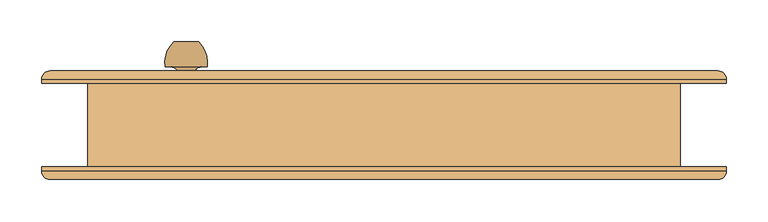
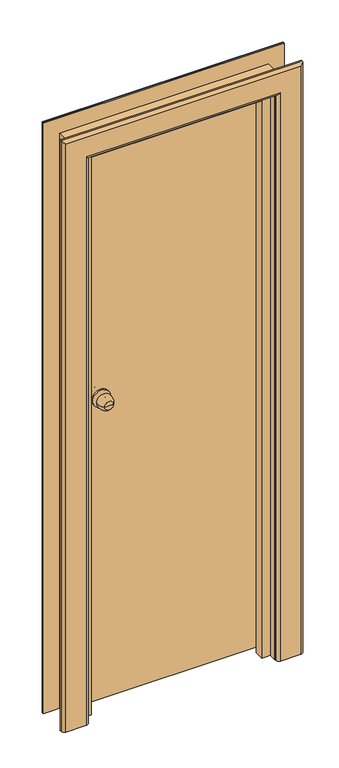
"""IFC4 building model written with IfcOpenShell, lengths in millimetres: door geometry, Внутренняя дверь 1-Навесная - 6629-88 : ДГ 21-7  ГОСТ 6629-88."""

from ifc_helpers import new_model, si_unit, point, frame, origin, place, context, project, spatial, polyline, circle_curve, ellipse_curve, trimmed, outline, extrude, faceted_brep, source, transform, mapped, element, save
from ifc_brep_helpers import plane_surface, cylinder_surface, revolved_surface, advanced_brep


def door_4404b6de(model_context):
    return source(origin(), model_context, "Body", "SolidModel", [
        advanced_brep(
        [(-222.0, 100.0, 1100.0), (-237.0, 100.0, 1100.0), (-252.0, 100.0, 1100.0), (-262.0, 70.0, 1100.0), (-212.0, 70.0, 1100.0), (-255.0, 70.0, 1100.0), (-219.0, 70.0, 1100.0), (-247.0, 62.0, 1100.0), (-227.0, 62.0, 1100.0), (-247.0, 56.0, 1100.0), (-227.0, 56.0, 1100.0), (-267.0, 56.0, 1100.0), (-207.0, 56.0, 1100.0), (-267.0, 50.0, 1100.0), (-207.0, 50.0, 1100.0)],
        [
            (0, 1),
            (1, 2),
            (2, 0, circle_curve(frame((-237.0, 100.0, 1100.0), z_axis=(0.0, 1.0, 0.0), x_axis=(-1.0, 0.0, 0.0)), 15.0)),
            (0, 2, circle_curve(frame((-237.0, 100.0, 1100.0), z_axis=(0.0, 1.0, 0.0), x_axis=(-1.0, 0.0, 0.0)), 15.0)),
            (2, 3, circle_curve(frame((-227.3773735, 75.1257912, 1100.0), z_axis=(0.0, 0.0, 1.0), x_axis=(1.0, 0.0, 0.0)), 35.0)),
            (3, 4, circle_curve(frame((-237.0, 70.0, 1100.0), z_axis=(0.0, 1.0, 0.0), x_axis=(-1.0, 0.0, 0.0)), 25.0)),
            (4, 0, circle_curve(frame((-246.6226265, 75.1257912, 1100.0), z_axis=(0.0, 0.0, 1.0), x_axis=(-1.0, 0.0, 0.0)), 35.0)),
            (4, 3, circle_curve(frame((-237.0, 70.0, 1100.0), z_axis=(0.0, 1.0, 0.0), x_axis=(-1.0, 0.0, 0.0)), 25.0)),
            (3, 5),
            (5, 6, circle_curve(frame((-237.0, 70.0, 1100.0), z_axis=(0.0, 1.0, 0.0), x_axis=(-1.0, 0.0, 0.0)), 18.0)),
            (6, 4),
            (6, 5, circle_curve(frame((-237.0, 70.0, 1100.0), z_axis=(0.0, 1.0, 0.0), x_axis=(-1.0, 0.0, 0.0)), 18.0)),
            (5, 7, circle_curve(frame((-255.0, 62.0, 1100.0), z_axis=(0.0, 0.0, -1.0), x_axis=(1.0, 0.0, 0.0)), 8.0)),
            (7, 8, circle_curve(frame((-237.0, 62.0, 1100.0), z_axis=(0.0, 1.0, 0.0), x_axis=(-1.0, 0.0, 0.0)), 10.0)),
            (8, 6, circle_curve(frame((-219.0, 62.0, 1100.0), z_axis=(0.0, 0.0, -1.0), x_axis=(-1.0, 0.0, 0.0)), 8.0)),
            (8, 7, circle_curve(frame((-237.0, 62.0, 1100.0), z_axis=(0.0, 1.0, 0.0), x_axis=(-1.0, 0.0, 0.0)), 10.0)),
            (7, 9),
            (9, 10, circle_curve(frame((-237.0, 56.0, 1100.0), z_axis=(0.0, 1.0, 0.0), x_axis=(-1.0, 0.0, 0.0)), 10.0)),
            (10, 8),
            (10, 9, circle_curve(frame((-237.0, 56.0, 1100.0), z_axis=(0.0, 1.0, 0.0), x_axis=(-1.0, 0.0, 0.0)), 10.0)),
            (11, 12, circle_curve(frame((-237.0, 56.0, 1100.0), z_axis=(0.0, 1.0, 0.0), x_axis=(1.0, 0.0, 0.0)), 30.0)),
            (12, 11, circle_curve(frame((-237.0, 56.0, 1100.0), z_axis=(0.0, 1.0, 0.0), x_axis=(1.0, 0.0, 0.0)), 30.0)),
            (13, 14, circle_curve(frame((-237.0, 50.0, 1100.0), z_axis=(0.0, -1.0, 0.0), x_axis=(1.0, 0.0, 0.0)), 30.0)),
            (14, 13, circle_curve(frame((-237.0, 50.0, 1100.0), z_axis=(0.0, -1.0, 0.0), x_axis=(1.0, 0.0, 0.0)), 30.0)),
            (12, 14),
            (13, 11),
        ],
        [
            plane_surface(frame((-237.0, 100.0, 1100.0), z_axis=(0.0, 1.0, 0.0), x_axis=(-1.0, 0.0, 0.0))),
            revolved_surface(trimmed(ellipse_curve(frame((-227.3773735, 75.1257912, 1100.0), z_axis=(0.0, 0.0, 1.0), x_axis=(1.0, 0.0, 0.0)), 35.0, 35.0), [point((-252.0, 100.0, 1100.0))], [point((-262.0, 70.0, 1100.0))], True, "CARTESIAN"), (-237.0, 130.0, 1100.0), (0.0, -1.0, 0.0)),
            plane_surface(frame((-237.0, 70.0, 1100.0), z_axis=(0.0, -1.0, 0.0), x_axis=(-1.0, 0.0, 0.0))),
            revolved_surface(trimmed(ellipse_curve(frame((-255.0, 62.0, 1100.0), z_axis=(0.0, 0.0, -1.0), x_axis=(1.0, 0.0, 0.0)), 8.0, 8.0), [point((-255.0, 70.0, 1100.0))], [point((-247.0, 62.0, 1100.0))], True, "CARTESIAN"), (-237.0, 130.0, 1100.0), (0.0, -1.0, 0.0)),
            cylinder_surface(frame((-237.0, 130.0, 1100.0), z_axis=(0.0, -1.0, 0.0), x_axis=(-1.0, 0.0, 0.0)), 10.0),
            plane_surface(frame((-207.0, 56.0, 1100.0), z_axis=(0.0, 1.0, 0.0), x_axis=(0.0, 0.0, 1.0))),
            plane_surface(frame((-207.0, 50.0, 1100.0), z_axis=(0.0, -1.0, 0.0), x_axis=(0.0, 0.0, -1.0))),
            cylinder_surface(frame((-237.0, 50.0, 1100.0), z_axis=(0.0, 1.0, 0.0), x_axis=(1.0, 0.0, 0.0)), 30.0),
        ],
        [
            (0, [[1, 2, 3]]),
            (0, [[-1, 4, -2]]),
            (1, [[5, 6, 7, -3]]),
            (1, [[-7, 8, -5, -4]]),
            (2, [[9, 10, 11, -6]]),
            (2, [[-11, 12, -9, -8]]),
            (3, [[13, 14, 15, -10]]),
            (3, [[-15, 16, -13, -12]]),
            (4, [[17, 18, 19, -14]]),
            (4, [[-19, 20, -17, -16]]),
            (5, [[21, 22], [-20, -18]]),
            (6, [[23, 24]]),
            (7, [[25, -23, 26, -22]]),
            (7, [[-26, -24, -25, -21]]),
        ],
    ),
        advanced_brep(
        [(-252.0, -37.0, 1100.0), (-237.0, -37.0, 1100.0), (-222.0, -37.0, 1100.0), (-212.0, -7.0, 1100.0), (-262.0, -7.0, 1100.0), (-219.0, -7.0, 1100.0), (-255.0, -7.0, 1100.0), (-227.0, 1.0, 1100.0), (-247.0, 1.0, 1100.0), (-227.0, 7.0, 1100.0), (-247.0, 7.0, 1100.0), (-207.0, 7.0, 1100.0), (-267.0, 7.0, 1100.0), (-207.0, 13.0, 1100.0), (-267.0, 13.0, 1100.0)],
        [
            (0, 1),
            (1, 2),
            (2, 0, circle_curve(frame((-237.0, -37.0, 1100.0), z_axis=(0.0, -1.0, 0.0), x_axis=(1.0, 0.0, 0.0)), 15.0)),
            (0, 2, circle_curve(frame((-237.0, -37.0, 1100.0), z_axis=(0.0, -1.0, 0.0), x_axis=(1.0, 0.0, 0.0)), 15.0)),
            (2, 3, circle_curve(frame((-246.6226265, -12.1257912, 1100.0), z_axis=(0.0, 0.0, 1.0), x_axis=(-1.0, 0.0, 0.0)), 35.0)),
            (3, 4, circle_curve(frame((-237.0, -7.0, 1100.0), z_axis=(0.0, -1.0, 0.0), x_axis=(1.0, 0.0, 0.0)), 25.0)),
            (4, 0, circle_curve(frame((-227.3773735, -12.1257912, 1100.0), z_axis=(0.0, 0.0, 1.0), x_axis=(1.0, 0.0, 0.0)), 35.0)),
            (4, 3, circle_curve(frame((-237.0, -7.0, 1100.0), z_axis=(0.0, -1.0, 0.0), x_axis=(1.0, 0.0, 0.0)), 25.0)),
            (3, 5),
            (5, 6, circle_curve(frame((-237.0, -7.0, 1100.0), z_axis=(0.0, -1.0, 0.0), x_axis=(1.0, 0.0, 0.0)), 18.0)),
            (6, 4),
            (6, 5, circle_curve(frame((-237.0, -7.0, 1100.0), z_axis=(0.0, -1.0, 0.0), x_axis=(1.0, 0.0, 0.0)), 18.0)),
            (5, 7, circle_curve(frame((-219.0, 1.0, 1100.0), z_axis=(0.0, 0.0, -1.0), x_axis=(-1.0, 0.0, 0.0)), 8.0)),
            (7, 8, circle_curve(frame((-237.0, 1.0, 1100.0), z_axis=(0.0, -1.0, 0.0), x_axis=(1.0, 0.0, 0.0)), 10.0)),
            (8, 6, circle_curve(frame((-255.0, 1.0, 1100.0), z_axis=(0.0, 0.0, -1.0), x_axis=(1.0, 0.0, 0.0)), 8.0)),
            (8, 7, circle_curve(frame((-237.0, 1.0, 1100.0), z_axis=(0.0, -1.0, 0.0), x_axis=(1.0, 0.0, 0.0)), 10.0)),
            (7, 9),
            (9, 10, circle_curve(frame((-237.0, 7.0, 1100.0), z_axis=(0.0, -1.0, 0.0), x_axis=(1.0, 0.0, 0.0)), 10.0)),
            (10, 8),
            (10, 9, circle_curve(frame((-237.0, 7.0, 1100.0), z_axis=(0.0, -1.0, 0.0), x_axis=(1.0, 0.0, 0.0)), 10.0)),
            (11, 12, circle_curve(frame((-237.0, 7.0, 1100.0), z_axis=(0.0, -1.0, 0.0), x_axis=(-1.0, 0.0, 0.0)), 30.0)),
            (12, 11, circle_curve(frame((-237.0, 7.0, 1100.0), z_axis=(0.0, -1.0, 0.0), x_axis=(-1.0, 0.0, 0.0)), 30.0)),
            (13, 14, circle_curve(frame((-237.0, 13.0, 1100.0), z_axis=(0.0, 1.0, 0.0), x_axis=(-1.0, 0.0, 0.0)), 30.0)),
            (14, 13, circle_curve(frame((-237.0, 13.0, 1100.0), z_axis=(0.0, 1.0, 0.0), x_axis=(-1.0, 0.0, 0.0)), 30.0)),
            (12, 14),
            (13, 11),
        ],
        [
            plane_surface(frame((-237.0, -37.0, 1100.0), z_axis=(0.0, -1.0, 0.0), x_axis=(1.0, 0.0, 0.0))),
            revolved_surface(trimmed(ellipse_curve(frame((-246.6226265, -12.1257912, 1100.0), z_axis=(0.0, 0.0, 1.0), x_axis=(-1.0, 0.0, 0.0)), 35.0, 35.0), [point((-222.0, -37.0, 1100.0))], [point((-212.0, -7.0, 1100.0))], True, "CARTESIAN"), (-237.0, -67.0, 1100.0), (0.0, 1.0, 0.0)),
            plane_surface(frame((-237.0, -7.0, 1100.0), z_axis=(0.0, 1.0, 0.0), x_axis=(1.0, 0.0, 0.0))),
            revolved_surface(trimmed(ellipse_curve(frame((-219.0, 1.0, 1100.0), z_axis=(0.0, 0.0, -1.0), x_axis=(-1.0, 0.0, 0.0)), 8.0, 8.0), [point((-219.0, -7.0, 1100.0))], [point((-227.0, 1.0, 1100.0))], True, "CARTESIAN"), (-237.0, -67.0, 1100.0), (0.0, 1.0, 0.0)),
            cylinder_surface(frame((-237.0, -67.0, 1100.0), z_axis=(0.0, 1.0, 0.0), x_axis=(1.0, 0.0, 0.0)), 10.0),
            plane_surface(frame((-267.0, 7.0, 1100.0), z_axis=(0.0, -1.0, 0.0), x_axis=(0.0, 0.0, 1.0))),
            plane_surface(frame((-267.0, 13.0, 1100.0), z_axis=(0.0, 1.0, 0.0), x_axis=(0.0, 0.0, -1.0))),
            cylinder_surface(frame((-237.0, 13.0, 1100.0), z_axis=(0.0, -1.0, 0.0), x_axis=(-1.0, 0.0, 0.0)), 30.0),
        ],
        [
            (0, [[1, 2, 3]]),
            (0, [[-1, 4, -2]]),
            (1, [[5, 6, 7, -3]]),
            (1, [[-7, 8, -5, -4]]),
            (2, [[9, 10, 11, -6]]),
            (2, [[-11, 12, -9, -8]]),
            (3, [[13, 14, 15, -10]]),
            (3, [[-15, 16, -13, -12]]),
            (4, [[17, 18, 19, -14]]),
            (4, [[-19, 20, -17, -16]]),
            (5, [[21, 22], [-20, -18]]),
            (6, [[23, 24]]),
            (7, [[25, -23, 26, -22]]),
            (7, [[-26, -24, -25, -21]]),
        ],
    ),
        extrude(outline(polyline([(0.0, 335.0), (2050.0, 335.0), (2050.0, -335.0), (0.0, -335.0), (0.0, -320.0), (2035.0, -320.0), (2035.0, 320.0), (0.0, 320.0), (0.0, 335.0)])), frame((0.0, -50.0, 0.0), z_axis=(0.0, 1.0, 0.0), x_axis=(0.0, 0.0, 1.0)), (0.0, 0.0, 1.0), 26.0),
        advanced_brep(
        [(-410.0, 50.0, 0.0), (-410.0, 55.0, 0.0), (-400.0, 65.0, 0.0), (-330.0, 65.0, 0.0), (-320.0, 55.0, 0.0), (-320.0, 50.0, 0.0), (-320.0, 50.0, 2035.0), (320.0, 50.0, 2035.0), (320.0, 50.0, 0.0), (410.0, 50.0, 0.0), (410.0, 50.0, 2125.0), (-410.0, 50.0, 2125.0), (-320.0, 55.0, 2035.0), (-330.0, 65.0, 2045.0), (-400.0, 65.0, 2115.0), (400.0, 65.0, 2115.0), (400.0, 65.0, 0.0), (330.0, 65.0, 0.0), (330.0, 65.0, 2045.0), (-410.0, 55.0, 2125.0), (410.0, 55.0, 0.0), (410.0, 55.0, 2125.0), (320.0, 55.0, 0.0), (320.0, 55.0, 2035.0)],
        [
            (0, 1),
            (1, 2, circle_curve(frame((-400.0, 55.0, 0.0), z_axis=(0.0, 0.0, -1.0), x_axis=(-1.0, 0.0, 0.0)), 10.0)),
            (2, 3),
            (3, 4, circle_curve(frame((-330.0, 55.0, 0.0), z_axis=(0.0, 0.0, -1.0), x_axis=(-1.0, 0.0, 0.0)), 10.0)),
            (4, 5),
            (5, 0),
            (5, 6),
            (6, 7),
            (7, 8),
            (8, 9),
            (9, 10),
            (10, 11),
            (11, 0),
            (4, 12),
            (12, 6),
            (3, 13),
            (13, 12, ellipse_curve(frame((-330.0, 55.0, 2045.0), z_axis=(-0.7071067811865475, 0.0, -0.7071067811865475), x_axis=(0.7071067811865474, 0.0, -0.7071067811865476)), 14.1421356, 10.0)),
            (2, 14),
            (14, 15),
            (15, 16),
            (16, 17),
            (17, 18),
            (18, 13),
            (1, 19),
            (19, 14, ellipse_curve(frame((-400.0, 55.0, 2115.0), z_axis=(-0.7071067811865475, 0.0, -0.7071067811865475), x_axis=(0.7071067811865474, 0.0, -0.7071067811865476)), 14.1421356, 10.0)),
            (11, 19),
            (9, 20),
            (20, 21),
            (21, 10),
            (8, 22),
            (22, 17, circle_curve(frame((330.0, 55.0, 0.0), z_axis=(0.0, 0.0, -1.0), x_axis=(1.0, 0.0, 0.0)), 10.0)),
            (16, 20, circle_curve(frame((400.0, 55.0, 0.0), z_axis=(0.0, 0.0, -1.0), x_axis=(1.0, 0.0, 0.0)), 10.0)),
            (23, 22),
            (7, 23),
            (23, 18, ellipse_curve(frame((330.0, 55.0, 2045.0), z_axis=(0.7071067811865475, 0.0, -0.7071067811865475), x_axis=(0.7071067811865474, 0.0, 0.7071067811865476)), 14.1421356, 10.0)),
            (15, 21, ellipse_curve(frame((400.0, 55.0, 2115.0), z_axis=(0.7071067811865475, 0.0, -0.7071067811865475), x_axis=(0.7071067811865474, 0.0, 0.7071067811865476)), 14.1421356, 10.0)),
            (12, 23),
            (19, 21),
        ],
        [
            plane_surface(frame((-355.0, 50.0, 0.0), z_axis=(0.0, 0.0, -1.0), x_axis=(0.0, -1.0, 0.0))),
            plane_surface(frame((-410.0, 50.0, 0.0), z_axis=(0.0, -1.0, 0.0), x_axis=(0.0, 0.0, 1.0))),
            plane_surface(frame((-320.0, 50.0, 0.0), z_axis=(1.0, 0.0, 0.0), x_axis=(0.0, 0.0, 1.0))),
            cylinder_surface(frame((-330.0, 55.0, 0.0), z_axis=(0.0, 0.0, -1.0), x_axis=(-1.0, 0.0, 0.0)), 10.0),
            plane_surface(frame((-330.0, 65.0, 0.0), z_axis=(0.0, 1.0, 0.0), x_axis=(0.0, 0.0, 1.0))),
            cylinder_surface(frame((-400.0, 55.0, 0.0), z_axis=(0.0, 0.0, -1.0), x_axis=(-1.0, 0.0, 0.0)), 10.0),
            plane_surface(frame((-410.0, 55.0, 0.0), z_axis=(-1.0, 0.0, 0.0), x_axis=(0.0, 0.0, 1.0))),
            plane_surface(frame((410.0, 55.0, 2125.0), z_axis=(1.0, 0.0, 0.0), x_axis=(0.0, 0.0, -1.0))),
            plane_surface(frame((355.0, 50.0, 0.0), z_axis=(0.0, 0.0, -1.0), x_axis=(0.0, -1.0, 0.0))),
            plane_surface(frame((320.0, 50.0, 2035.0), z_axis=(-1.0, 0.0, 0.0), x_axis=(0.0, 0.0, -1.0))),
            cylinder_surface(frame((330.0, 55.0, 2070.0), z_axis=(0.0, 0.0, 1.0), x_axis=(1.0, 0.0, 0.0)), 10.0),
            cylinder_surface(frame((400.0, 55.0, 2070.0), z_axis=(0.0, 0.0, 1.0), x_axis=(1.0, 0.0, 0.0)), 10.0),
            plane_surface(frame((-320.0, 50.0, 2035.0), z_axis=(0.0, 0.0, -1.0), x_axis=(1.0, 0.0, 0.0))),
            cylinder_surface(frame((-355.0, 55.0, 2045.0), z_axis=(-1.0, 0.0, 0.0), x_axis=(0.0, 0.0, 1.0)), 10.0),
            cylinder_surface(frame((-355.0, 55.0, 2115.0), z_axis=(-1.0, 0.0, 0.0), x_axis=(0.0, 0.0, 1.0)), 10.0),
            plane_surface(frame((-410.0, 55.0, 2125.0), z_axis=(0.0, 0.0, 1.0), x_axis=(1.0, 0.0, 0.0))),
        ],
        [
            (0, [[1, 2, 3, 4, 5, 6]]),
            (1, [[7, 8, 9, 10, 11, 12, 13, -6]]),
            (2, [[14, 15, -7, -5]]),
            (3, [[16, 17, -14, -4]]),
            (4, [[18, 19, 20, 21, 22, 23, -16, -3]]),
            (5, [[24, 25, -18, -2]]),
            (6, [[-13, 26, -24, -1]]),
            (7, [[-11, 27, 28, 29]]),
            (8, [[-10, 30, 31, -21, 32, -27]]),
            (9, [[33, -30, -9, 34]]),
            (10, [[-22, -31, -33, 35]]),
            (11, [[-28, -32, -20, 36]]),
            (12, [[37, -34, -8, -15]]),
            (13, [[-23, -35, -37, -17]]),
            (14, [[38, -36, -19, -25]]),
            (15, [[-12, -29, -38, -26]]),
        ],
    ),
        advanced_brep(
        [(410.0, -50.0, 0.0), (410.0, -55.0, 0.0), (400.0, -65.0, 0.0), (330.0, -65.0, 0.0), (320.0, -55.0, 0.0), (320.0, -50.0, 0.0), (320.0, -50.0, 2035.0), (-320.0, -50.0, 2035.0), (-320.0, -50.0, 0.0), (-410.0, -50.0, 0.0), (-410.0, -50.0, 2125.0), (410.0, -50.0, 2125.0), (320.0, -55.0, 2035.0), (330.0, -65.0, 2045.0), (400.0, -65.0, 2115.0), (-400.0, -65.0, 2115.0), (-400.0, -65.0, 0.0), (-330.0, -65.0, 0.0), (-330.0, -65.0, 2045.0), (410.0, -55.0, 2125.0), (-410.0, -55.0, 0.0), (-410.0, -55.0, 2125.0), (-320.0, -55.0, 0.0), (-320.0, -55.0, 2035.0)],
        [
            (0, 1),
            (1, 2, circle_curve(frame((400.0, -55.0, 0.0), z_axis=(0.0, 0.0, -1.0), x_axis=(1.0, 0.0, 0.0)), 10.0)),
            (2, 3),
            (3, 4, circle_curve(frame((330.0, -55.0, 0.0), z_axis=(0.0, 0.0, -1.0), x_axis=(1.0, 0.0, 0.0)), 10.0)),
            (4, 5),
            (5, 0),
            (5, 6),
            (6, 7),
            (7, 8),
            (8, 9),
            (9, 10),
            (10, 11),
            (11, 0),
            (4, 12),
            (12, 6),
            (3, 13),
            (13, 12, ellipse_curve(frame((330.0, -55.0, 2045.0), z_axis=(0.7071067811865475, 0.0, -0.7071067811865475), x_axis=(-0.7071067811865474, 0.0, -0.7071067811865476)), 14.1421356, 10.0)),
            (2, 14),
            (14, 15),
            (15, 16),
            (16, 17),
            (17, 18),
            (18, 13),
            (1, 19),
            (19, 14, ellipse_curve(frame((400.0, -55.0, 2115.0), z_axis=(0.7071067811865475, 0.0, -0.7071067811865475), x_axis=(-0.7071067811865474, 0.0, -0.7071067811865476)), 14.1421356, 10.0)),
            (11, 19),
            (9, 20),
            (20, 21),
            (21, 10),
            (8, 22),
            (22, 17, circle_curve(frame((-330.0, -55.0, 0.0), z_axis=(0.0, 0.0, -1.0), x_axis=(-1.0, 0.0, 0.0)), 10.0)),
            (16, 20, circle_curve(frame((-400.0, -55.0, 0.0), z_axis=(0.0, 0.0, -1.0), x_axis=(-1.0, 0.0, 0.0)), 10.0)),
            (23, 22),
            (7, 23),
            (23, 18, ellipse_curve(frame((-330.0, -55.0, 2045.0), z_axis=(-0.7071067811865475, 0.0, -0.7071067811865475), x_axis=(-0.7071067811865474, 0.0, 0.7071067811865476)), 14.1421356, 10.0)),
            (15, 21, ellipse_curve(frame((-400.0, -55.0, 2115.0), z_axis=(-0.7071067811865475, 0.0, -0.7071067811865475), x_axis=(-0.7071067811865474, 0.0, 0.7071067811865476)), 14.1421356, 10.0)),
            (12, 23),
            (19, 21),
        ],
        [
            plane_surface(frame((355.0, -50.0, 0.0), z_axis=(0.0, 0.0, -1.0), x_axis=(0.0, 1.0, 0.0))),
            plane_surface(frame((410.0, -50.0, 0.0), z_axis=(0.0, 1.0, 0.0), x_axis=(0.0, 0.0, 1.0))),
            plane_surface(frame((320.0, -50.0, 0.0), z_axis=(-1.0, 0.0, 0.0), x_axis=(0.0, 0.0, 1.0))),
            cylinder_surface(frame((330.0, -55.0, 0.0), z_axis=(0.0, 0.0, -1.0), x_axis=(1.0, 0.0, 0.0)), 10.0),
            plane_surface(frame((330.0, -65.0, 0.0), z_axis=(0.0, -1.0, 0.0), x_axis=(0.0, 0.0, 1.0))),
            cylinder_surface(frame((400.0, -55.0, 0.0), z_axis=(0.0, 0.0, -1.0), x_axis=(1.0, 0.0, 0.0)), 10.0),
            plane_surface(frame((410.0, -55.0, 0.0), z_axis=(1.0, 0.0, 0.0), x_axis=(0.0, 0.0, 1.0))),
            plane_surface(frame((-410.0, -55.0, 2125.0), z_axis=(-1.0, 0.0, 0.0), x_axis=(0.0, 0.0, -1.0))),
            plane_surface(frame((-355.0, -50.0, 0.0), z_axis=(0.0, 0.0, -1.0), x_axis=(0.0, 1.0, 0.0))),
            plane_surface(frame((-320.0, -50.0, 2035.0), z_axis=(1.0, 0.0, 0.0), x_axis=(0.0, 0.0, -1.0))),
            cylinder_surface(frame((-330.0, -55.0, 2070.0), z_axis=(0.0, 0.0, 1.0), x_axis=(-1.0, 0.0, 0.0)), 10.0),
            cylinder_surface(frame((-400.0, -55.0, 2070.0), z_axis=(0.0, 0.0, 1.0), x_axis=(-1.0, 0.0, 0.0)), 10.0),
            plane_surface(frame((320.0, -50.0, 2035.0), z_axis=(0.0, 0.0, -1.0), x_axis=(-1.0, 0.0, 0.0))),
            cylinder_surface(frame((355.0, -55.0, 2045.0), z_axis=(1.0, 0.0, 0.0), x_axis=(0.0, 0.0, 1.0)), 10.0),
            cylinder_surface(frame((355.0, -55.0, 2115.0), z_axis=(1.0, 0.0, 0.0), x_axis=(0.0, 0.0, 1.0)), 10.0),
            plane_surface(frame((410.0, -55.0, 2125.0), z_axis=(0.0, 0.0, 1.0), x_axis=(-1.0, 0.0, 0.0))),
        ],
        [
            (0, [[1, 2, 3, 4, 5, 6]]),
            (1, [[7, 8, 9, 10, 11, 12, 13, -6]]),
            (2, [[14, 15, -7, -5]]),
            (3, [[16, 17, -14, -4]]),
            (4, [[18, 19, 20, 21, 22, 23, -16, -3]]),
            (5, [[24, 25, -18, -2]]),
            (6, [[-13, 26, -24, -1]]),
            (7, [[-11, 27, 28, 29]]),
            (8, [[-10, 30, 31, -21, 32, -27]]),
            (9, [[33, -30, -9, 34]]),
            (10, [[-22, -31, -33, 35]]),
            (11, [[-28, -32, -20, 36]]),
            (12, [[37, -34, -8, -15]]),
            (13, [[-23, -35, -37, -17]]),
            (14, [[38, -36, -19, -25]]),
            (15, [[-12, -29, -38, -26]]),
        ],
    ),
        faceted_brep([(290.0, -24.0, 0.0), (290.0, 8.0, 0.0), (302.0, 8.0, 0.0), (302.0, 50.0, 0.0), (335.0, 50.0, 0.0), (335.0, -24.0, 0.0), (335.0, -24.0, 2050.0), (-335.0, -24.0, 2050.0), (-335.0, -24.0, 0.0), (-290.0, -24.0, 0.0), (-290.0, -24.0, 2005.0), (290.0, -24.0, 2005.0), (335.0, 50.0, 2050.0), (302.0, 50.0, 2017.0), (-302.0, 50.0, 2017.0), (-302.0, 50.0, 0.0), (-335.0, 50.0, 0.0), (-335.0, 50.0, 2050.0), (302.0, 8.0, 2017.0), (290.0, 8.0, 2005.0), (-290.0, 8.0, 2005.0), (-290.0, 8.0, 0.0), (-302.0, 8.0, 0.0), (-302.0, 8.0, 2017.0)], [[[0, 1, 2, 3, 4, 5]], [[5, 6, 7, 8, 9, 10, 11, 0]], [[4, 12, 6, 5]], [[3, 13, 14, 15, 16, 17, 12, 4]], [[2, 18, 13, 3]], [[1, 19, 20, 21, 22, 23, 18, 2]], [[0, 11, 19, 1]], [[10, 9, 21, 20]], [[9, 8, 16, 15, 22, 21]], [[17, 16, 8, 7]], [[23, 22, 15, 14]], [[12, 17, 7, 6]], [[18, 23, 14, 13]], [[11, 10, 20, 19]]]),
        extrude(outline(polyline([(0.0, 355.0), (2070.0, 355.0), (2070.0, -355.0), (0.0, -355.0), (0.0, -335.0), (2050.0, -335.0), (2050.0, 335.0), (0.0, 335.0), (0.0, 355.0)])), frame((0.0, -50.0, 0.0), z_axis=(0.0, 1.0, 0.0), x_axis=(0.0, 0.0, 1.0)), (0.0, 0.0, 1.0), 100.0),
        extrude(outline(polyline([(297.0, 13.0), (-297.0, 13.0), (-297.0, 50.0), (297.0, 50.0), (297.0, 13.0)])), frame((0.0, 0.0, 15.0), z_axis=(0.0, 0.0, 1.0), x_axis=(1.0, 0.0, 0.0)), (0.0, 0.0, 1.0), 1997.0),
    ])


if __name__ == "__main__":
    model = new_model("IFC4")
    model_context = context("Model", 3, world=origin())
    ifc_project = project(units=[si_unit("LENGTHUNIT", "METRE", prefix="MILLI")], contexts=[model_context])
    site = spatial("IfcSite", under=ifc_project)
    building = spatial("IfcBuilding", under=site)
    placement = place(None, origin())
    door_shape = door_4404b6de(model_context)
    element("IfcDoor", 1, ObjectType="Внутренняя дверь 1-Навесная - 6629-88 : ДГ 21-7  ГОСТ 6629-88", at=placement, inside=building, context=model_context, shape_type="MappedRepresentation", body=[
        mapped(door_shape, transform((0.0, 0.0, 0.0), x_axis=(1.0, 0.0, 0.0), y_axis=(0.0, 1.0, 0.0), z_axis=(0.0, 0.0, 1.0))),
    ])
    save(model, "model.ifc")
